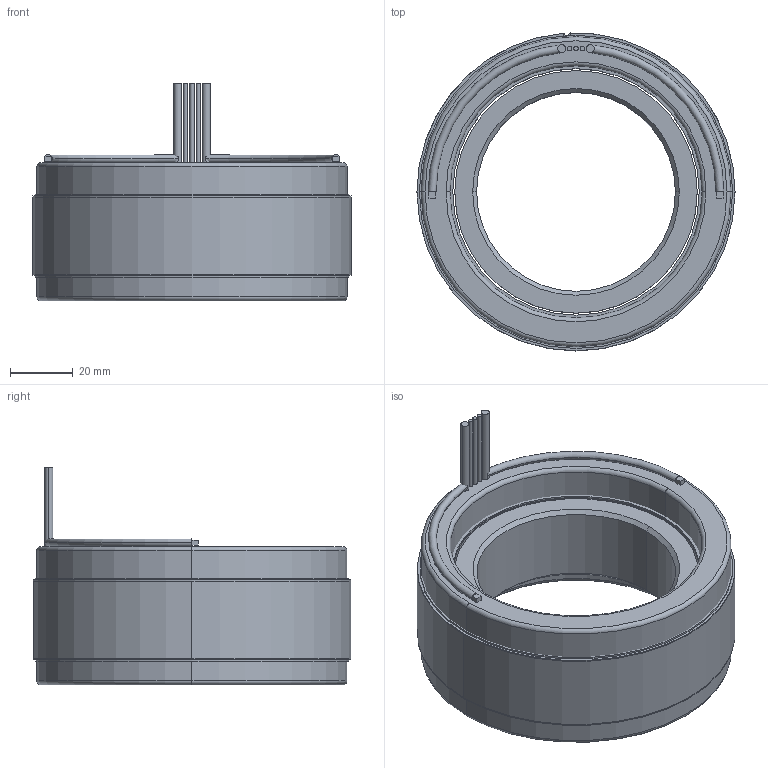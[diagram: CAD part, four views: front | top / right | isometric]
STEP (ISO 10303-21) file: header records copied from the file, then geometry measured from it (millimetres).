
FILE_DESCRIPTION (( 'STEP AP214' ), '1' );
FILE_NAME ('6100339-03.STEP', '2019-10-23T21:17:11', ( '' ), ( '' ), 'SwSTEP 2.0', 'SolidWorks 2016', '' );
FILE_SCHEMA (( 'AUTOMOTIVE_DESIGN' ));
Length unit declared in the file: millimetre
Products named in the file (11): 4600555-00; 6100339-03; 4250363-XX_4250363-03; 4150169-XX_4150169-03; 4500542-XX_4500542-03; 4400095-00; 4450182-XX_4450182-03; COMP4500542-XX(COIL)_COMP4500542-03(COIL)
Assembly tree (10 placements, depth 4):
  6100339-03
    4250363-XX_4250363-03
      4150169-XX_4150169-03
    4500542-XX_4500542-03
      4450182-XX_4450182-03
        4450182-XX_4450182-03
        4400095-00
        4400095-00
        4600555-00
        4600555-00
      COMP4500542-XX(COIL)_COMP4500542-03(COIL)
Bounding box: 101.6 x 101.57 x 69.6 mm (x, y, z)
Volume: 240484.1 mm3; surface area: 91882.6 mm2
Topology: 14 solids, 14 shells, 109 faces, 215 edges, 134 vertices
Faces by surface type: cylinder 49, plane 44, torus 12, cone 4
Entity records: 3342 total; most frequent: DIRECTION 603, CARTESIAN_POINT 474, ORIENTED_EDGE 430, AXIS2_PLACEMENT_3D 263, EDGE_CURVE 215, CIRCLE 138, VERTEX_POINT 134, EDGE_LOOP 123
